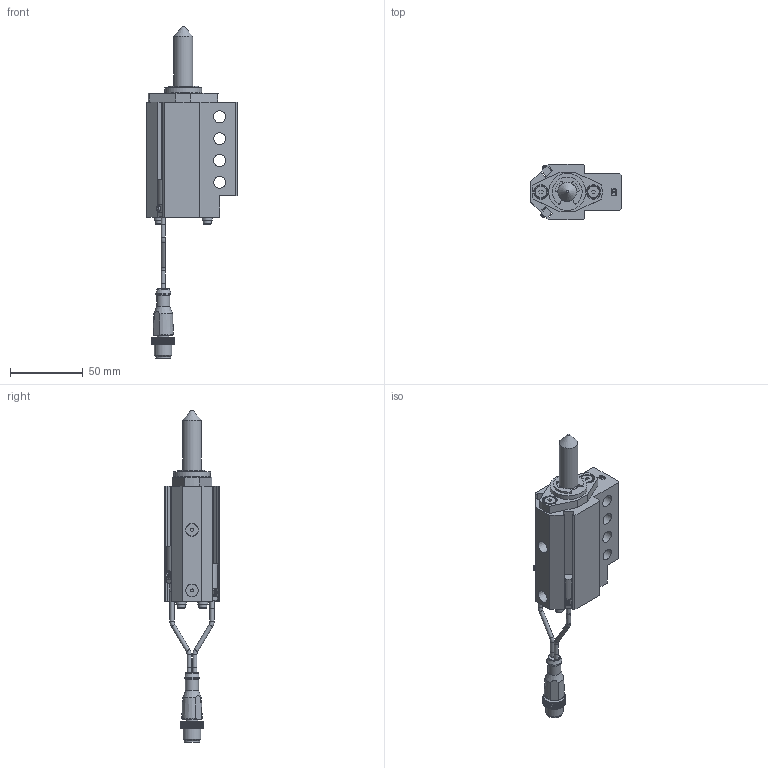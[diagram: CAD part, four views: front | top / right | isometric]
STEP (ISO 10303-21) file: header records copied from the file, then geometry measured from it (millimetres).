
FILE_DESCRIPTION(/* description */ ('NAAMS FLOATING MICRO PIN'),/* implementation_level */ '2;1');
FILE_NAME(/* name */ 'C:\Vault Workspace\CAD\Welker\Shot Pin\NMP\NMP130032ABNL3.stp',/* time_stamp */ '2021-01-27T10:54:57-05:00',/* author */ ('WELKER'),/* organization */ (''),/* preprocessor_version */ 'ST-DEVELOPER v18.1',/* originating_system */ 'Autodesk Inventor 2020',/* authorisation */ '');
FILE_SCHEMA (('AUTOMOTIVE_DESIGN { 1 0 10303 214 3 1 1 }'));
Length unit declared in the file: millimetre
Products named in the file (16): NMPL01; NMP L3 SWITCH; L3 Connector; L3 Sensor 1; L3 Sensor 2; L3 Sensor cable; L3 Sensor cable 2; M3X0.5-8 SHCS; NL3; NMPE06; NMPE03; NMPE05-DIA-LENGTH; 985432A218; NMPE01B-PORT; RMPE02; M5X5 SHOULDER
Assembly tree (22 placements, depth 3):
  NMPL01
    NMP L3 SWITCH
      L3 Connector
      L3 Sensor 1
      L3 Sensor 2
      L3 Sensor cable
      L3 Sensor cable 2
    M3X0.5-8 SHCS  x4
    NL3  x4
    NMPE06
    NMPE03
    NMPE05-DIA-LENGTH
    985432A218
    NMPE01B-PORT
    RMPE02
    M5X5 SHOULDER  x2
Bounding box: 62 x 38.1 x 227.71 mm (x, y, z)
Volume: 114402.8 mm3; surface area: 46187.5 mm2
Topology: 21 solids, 21 shells, 756 faces, 2047 edges, 1368 vertices
Faces by surface type: plane 552, cylinder 143, cone 31, bspline 16, torus 11, sphere 3
Full cylindrical faces by diameter (mm): 2 x2, 2.459 x4, 2.9 x10, 3 x5, 3.242 x2, 3.4 x4, 4 x2, 5 x6, 5.5 x4, 7 x4, 8 x2, 8.3 x2, 8.376 x2, 9 x3, 10 x3, 10.4 x1, 10.5 x1, 12 x1, 13 x3, 16 x2, 19.05 x3, 21 x1, 22.5 x1, 23.672 x1, 24 x1, 25.4 x1, 25.5 x1, 26.5 x1, 28.677 x1, 29.21 x1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
Entity records: 23136 total; most frequent: CARTESIAN_POINT 4356, ORIENTED_EDGE 3792, DIRECTION 3714, EDGE_CURVE 1896, LINE 1392, VECTOR 1392, VERTEX_POINT 1273, AXIS2_PLACEMENT_3D 1161
